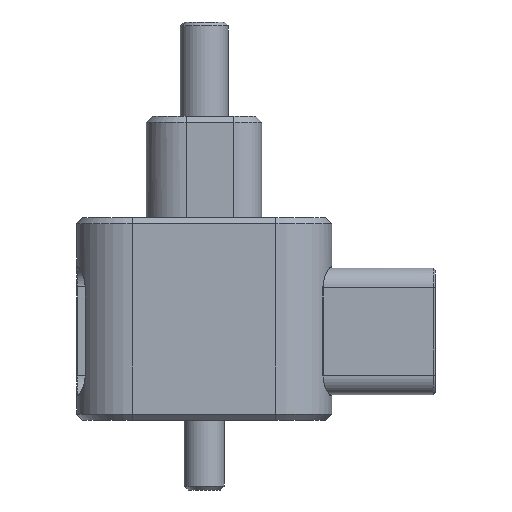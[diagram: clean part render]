
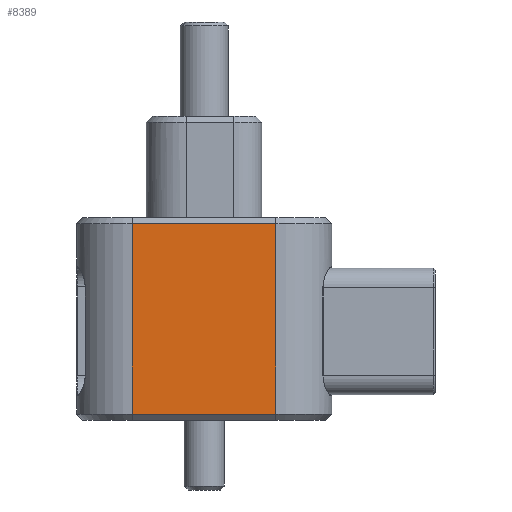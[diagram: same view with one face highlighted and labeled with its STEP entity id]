
A CAD part, front view. The second image highlights one B-rep face of the part: STEP entity #8389.
In plain terms, the highlighted planar face has unit normal (0, -1, 0).
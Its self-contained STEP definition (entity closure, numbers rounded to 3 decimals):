
#585 = CARTESIAN_POINT ( 'NONE',  ( 8.989, -13.005, -25.4 ) ) ;
#589 = LINE ( 'NONE', #585, #601 ) ;
#600 = VECTOR ( 'NONE', #636, 1000. ) ;
#601 = VECTOR ( 'NONE', #618, 1000. ) ;
#602 = LINE ( 'NONE', #635, #600 ) ;
#618 = DIRECTION ( 'NONE',  ( 0., 0., 1. ) ) ;
#635 = CARTESIAN_POINT ( 'NONE',  ( -15.989, -13.005, -24.638 ) ) ;
#636 = DIRECTION ( 'NONE',  ( 1., 0., 0. ) ) ;
#637 = CARTESIAN_POINT ( 'NONE',  ( -8.989, -13.005, -25.4 ) ) ;
#638 = DIRECTION ( 'NONE',  ( 0., 0., -1. ) ) ;
#639 = CARTESIAN_POINT ( 'NONE',  ( -8.989, -13.005, -0.762 ) ) ;
#640 = DIRECTION ( 'NONE',  ( -1., 0., 0. ) ) ;
#661 = LINE ( 'NONE', #637, #662 ) ;
#662 = VECTOR ( 'NONE', #638, 1000. ) ;
#663 = LINE ( 'NONE', #639, #664 ) ;
#664 = VECTOR ( 'NONE', #640, 1000. ) ;
#1130 = FACE_OUTER_BOUND ( 'NONE', #10480, .T. ) ;
#1141 = PLANE ( 'NONE',  #9466 ) ;
#1145 = CARTESIAN_POINT ( 'NONE',  ( -15.989, -13.005, -25.4 ) ) ;
#1150 = DIRECTION ( 'NONE',  ( 0., -1., 0. ) ) ;
#1151 = DIRECTION ( 'NONE',  ( 0., 0., -1. ) ) ;
#1656 = ORIENTED_EDGE ( 'NONE', *, *, #8268, .T. ) ;
#1657 = ORIENTED_EDGE ( 'NONE', *, *, #8267, .T. ) ;
#1658 = ORIENTED_EDGE ( 'NONE', *, *, #8258, .T. ) ;
#1659 = ORIENTED_EDGE ( 'NONE', *, *, #8269, .T. ) ;
#2002 = VERTEX_POINT ( 'NONE', #11178 ) ;
#2003 = VERTEX_POINT ( 'NONE', #11179 ) ;
#2007 = VERTEX_POINT ( 'NONE', #11182 ) ;
#2008 = VERTEX_POINT ( 'NONE', #11183 ) ;
#8258 = EDGE_CURVE ( 'NONE', #2007, #2008, #589, .T. ) ;
#8267 = EDGE_CURVE ( 'NONE', #2002, #2007, #602, .T. ) ;
#8268 = EDGE_CURVE ( 'NONE', #2003, #2002, #661, .T. ) ;
#8269 = EDGE_CURVE ( 'NONE', #2008, #2003, #663, .T. ) ;
#8389 = ADVANCED_FACE ( 'NONE', ( #1130 ), #1141, .T. ) ;
#9466 = AXIS2_PLACEMENT_3D ( 'NONE', #1145, #1150, #1151 ) ;
#10480 = EDGE_LOOP ( 'NONE', ( #1656, #1657, #1658, #1659 ) ) ;
#11178 = CARTESIAN_POINT ( 'NONE',  ( -8.989, -13.005, -24.638 ) ) ;
#11179 = CARTESIAN_POINT ( 'NONE',  ( -8.989, -13.005, -0.762 ) ) ;
#11182 = CARTESIAN_POINT ( 'NONE',  ( 8.989, -13.005, -24.638 ) ) ;
#11183 = CARTESIAN_POINT ( 'NONE',  ( 8.989, -13.005, -0.762 ) ) ;
